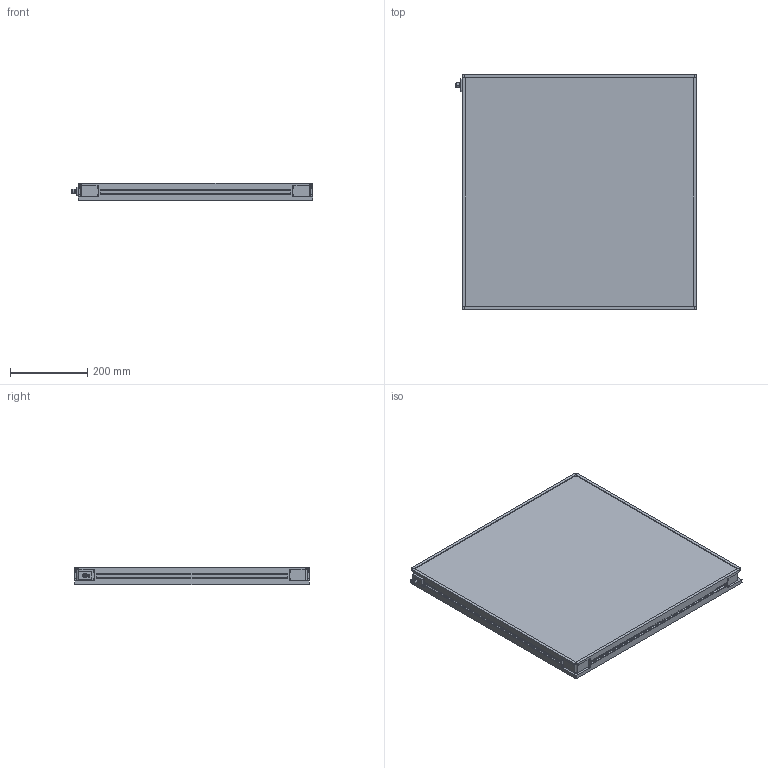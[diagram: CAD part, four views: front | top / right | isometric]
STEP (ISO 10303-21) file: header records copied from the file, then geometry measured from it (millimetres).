
FILE_DESCRIPTION (( 'STEP AP214' ), '1' );
FILE_NAME ('MBACK-xxxx-xxx-M1_CLIENT600x600.STEP', '2022-03-31T16:26:35', ( '' ), ( '' ), 'SwSTEP 2.0', 'SolidWorks 2020', '' );
FILE_SCHEMA (( 'AUTOMOTIVE_DESIGN' ));
Length unit declared in the file: millimetre
Products named in the file (1): MBACK-xxxx-xxx-M1_CLIENT600x600
Bounding box: 625.9 x 608 x 45.5 mm (x, y, z)
Volume: 15356795.5 mm3; surface area: 900699.4 mm2
Topology: 1 solids, 1 shells, 442 faces, 1144 edges, 760 vertices
Faces by surface type: plane 249, cylinder 105, bspline 80, cone 8
Entity records: 17236 total; most frequent: CARTESIAN_POINT 6699, ORIENTED_EDGE 2288, DIRECTION 1936, EDGE_CURVE 1144, VERTEX_POINT 760, VECTOR 758, LINE 758, AXIS2_PLACEMENT_3D 589
